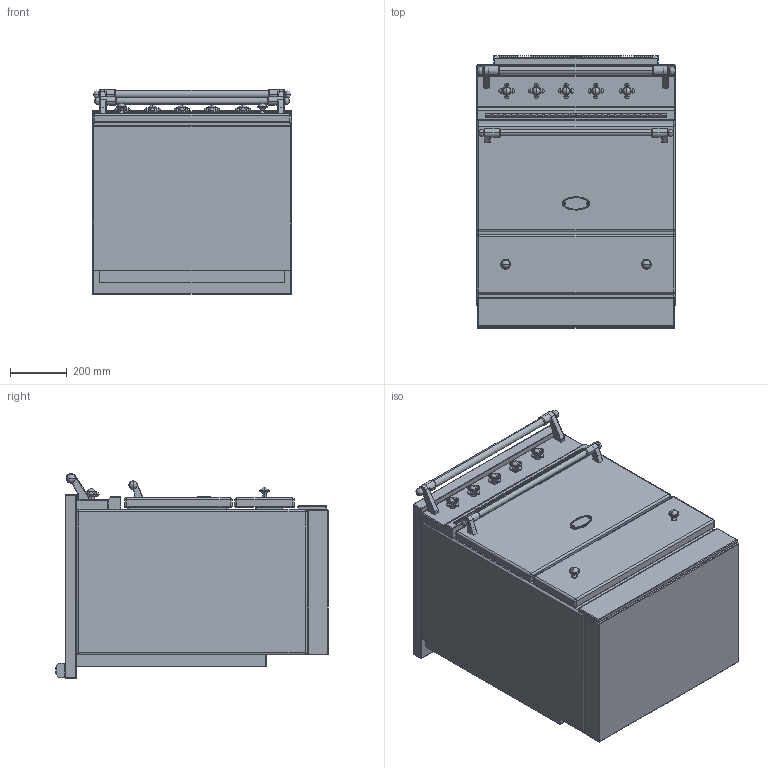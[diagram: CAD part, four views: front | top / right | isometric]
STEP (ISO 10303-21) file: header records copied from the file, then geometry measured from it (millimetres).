
FILE_DESCRIPTION((''),'2;1');
FILE_NAME('LVTR741_ASM','2021-12-01T16:26:10',('j.cheno'),(''),'CREO PARAMETRIC BY PTC INC, 2017260','CREO PARAMETRIC BY PTC INC, 2017260','');
FILE_SCHEMA(('AP203_CONFIGURATION_CONTROLLED_3D_DESIGN_OF_MECHANICAL_PARTS_AND_ASSEMBLIES_MIM_LF { 1 0 10303 403 2 1 2 }'));
Products named in the file (18): BASE_EXPORT_CORMATIN_4F; 65650003; 65650004; 6531940; 6531941; 6538399; 1931942; 65080022_AF0; 6531942_ASM; 6531943; 65049009; 65650001; BASE_EXPORT_CORMATIN_4F_ASM; TABLE_700_VITRO_INDUCT; 65052002; CHEMINEE_2020_LG582_EXPORT_STEP; TABLE_700_VITRO_ASM; LVTR741_ASM
Assembly tree (22 placements, depth 4):
  LVTR741_ASM
    BASE_EXPORT_CORMATIN_4F_ASM
      BASE_EXPORT_CORMATIN_4F
      65650003
      65650004
      6531940
      6531941
      6531942_ASM  x5
        6538399
        1931942
        65080022_AF0
      6531943  x2
      65049009
      65650001
    TABLE_700_VITRO_ASM
      TABLE_700_VITRO_INDUCT
      65052002
      CHEMINEE_2020_LG582_EXPORT_STEP
Bounding box: 700 x 963 x 724 mm (x, y, z)
Volume: 377870734.9 mm3; surface area: 6595278.1 mm2
Topology: 33 solids, 39 shells, 3276 faces, 8793 edges, 5612 vertices
Faces by surface type: plane 1677, cylinder 1048, extrusion 142, sphere 141, torus 137, bspline 62, cone 61, revolution 8
Entity records: 79918 total; most frequent: CARTESIAN_POINT 18642, ORIENTED_EDGE 10726, DIRECTION 10454, EDGE_CURVE 5373, VECTOR 3491, VERTEX_POINT 3462, LINE 3461, AXIS2_PLACEMENT_3D 3452
